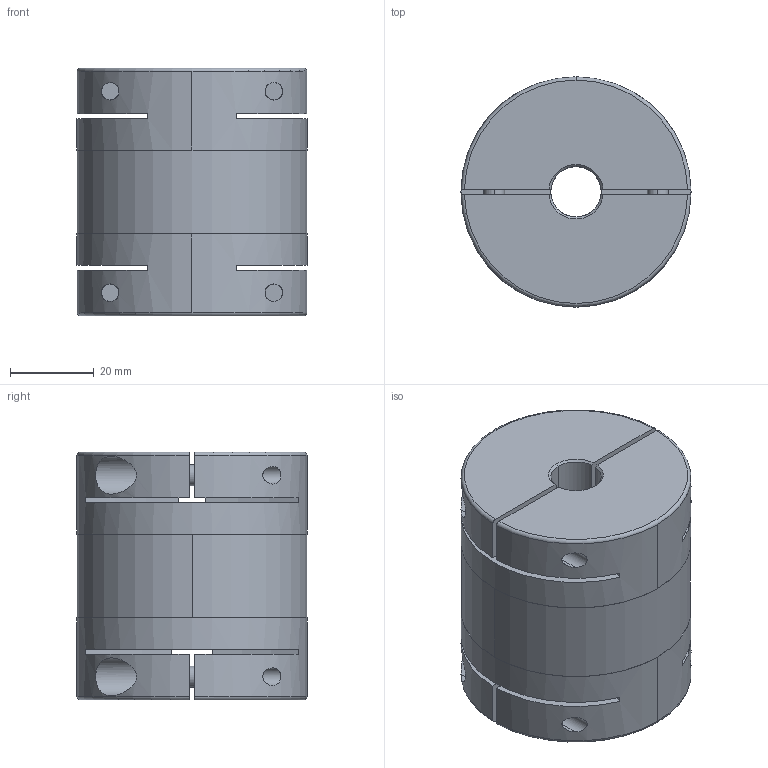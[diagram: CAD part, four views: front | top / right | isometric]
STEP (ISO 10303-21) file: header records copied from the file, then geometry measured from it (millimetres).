
FILE_DESCRIPTION (( 'STEP AP203' ), '1' );
FILE_NAME ('SHR-55C-12X14_203.STEP', '2013-05-19T07:20:32', ( 'Z77' ), ( '' ), 'SwSTEP 2.0', 'SolidWorks 2012', '' );
FILE_SCHEMA (( 'CONFIG_CONTROL_DESIGN' ));
Length unit declared in the file: millimetre
Products named in the file (1): SHR-55C-12X14_203
Bounding box: 54.8 x 54.8 x 59 mm (x, y, z)
Volume: 122645.5 mm3; surface area: 27820 mm2
Topology: 1 solids, 1 shells, 224 faces, 524 edges, 317 vertices
Faces by surface type: plane 93, cylinder 78, cone 29, torus 24
Entity records: 6954 total; most frequent: CARTESIAN_POINT 1642, DIRECTION 1179, ORIENTED_EDGE 1032, EDGE_CURVE 516, AXIS2_PLACEMENT_3D 470, VERTEX_POINT 317, EDGE_LOOP 257, CIRCLE 245
